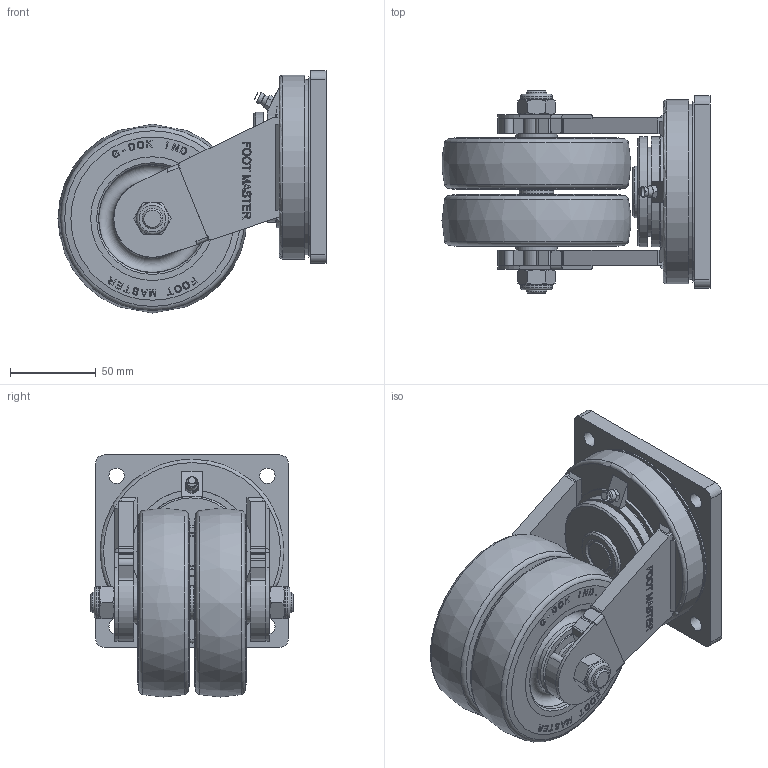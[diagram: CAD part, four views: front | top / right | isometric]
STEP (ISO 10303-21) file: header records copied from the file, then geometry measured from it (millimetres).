
FILE_DESCRIPTION(/* description */ (''),/* implementation_level */ '2;1');
FILE_NAME(/* name */ '\\192.168.10.38\지덕공유\1.기술연구소\1.도면\제품도면\1.양산품\9.1.GXTD-100_110_GXTA-100_GXTS-100\3D\GXTD-110-ASF-HUD_2026.07.27.stp',/* time_stamp */ '2026-07-27T15:58:18+09:00',/* author */ ('전태훈'),/* organization */ (''),/* preprocessor_version */ 'ST-DEVELOPER v18.1',/* originating_system */ 'Autodesk Inventor 2021',/* authorisation */ '');
FILE_SCHEMA (('AUTOMOTIVE_DESIGN { 1 0 10303 214 3 1 1 }'));
Products named in the file (1): GXTD-110-ASF-HUD_2026.07.27_형상단순화
Bounding box: 156 x 118 x 141 mm (x, y, z)
Volume: 927589.9 mm3; surface area: 130656.7 mm2
Topology: 1 solids, 1 shells, 1551 faces, 4197 edges, 2785 vertices
Faces by surface type: plane 1156, bspline 236, cylinder 80, cone 59, torus 19, sphere 1
Full cylindrical faces by diameter (mm): 9 x4, 12 x2, 15.2 x2, 18.5 x2, 20 x1, 24 x2, 30 x1, 35 x4, 52 x1, 61 x1, 64 x1, 102 x1, 105 x1, 107 x1
Entity records: 51270 total; most frequent: CARTESIAN_POINT 11980, ORIENTED_EDGE 8390, DIRECTION 6669, EDGE_CURVE 4195, LINE 3289, VECTOR 3289, VERTEX_POINT 2785, EDGE_LOOP 1700
